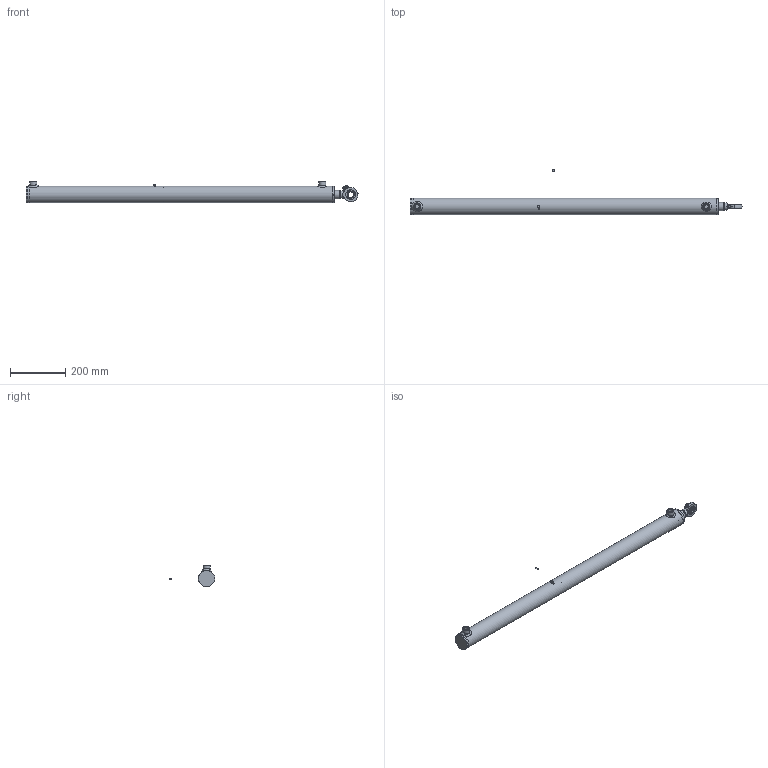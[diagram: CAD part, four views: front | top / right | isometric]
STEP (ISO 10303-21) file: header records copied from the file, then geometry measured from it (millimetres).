
FILE_DESCRIPTION( ( 'Unknown' ), '1' );
FILE_NAME( 'E:/LIBRERIA_3d/CILINDRI/HMB/HMB2301000.stp', 'Unknown', ( 'Unknown' ), ( 'Unknown' ), 'PSStep 17.0.49', 'Unknown', ' ' );
FILE_SCHEMA( ( 'AUTOMOTIVE_DESIGN { 1 0 10303 214 1 1 1 1 }' ) );
Length unit declared in the file: millimetre
Products named in the file (40): cstsf020c0; tsc20c_CORPO; AN00006001; CSTSF020N0; CSTS020N_CORPO-oa3; CSAI002035; CSAI002035-oa4; STL2501000-oa9; Saldatura d'angolo 1-oa7; FTM2501000-oa8; CBSC220600; CT00050020; CG06005030; CSTS020N00; CGE0200000-oa2; APGR013000; HM02301000; Saldatura con preparazione 1-oa5; Saldatura d'angolo 1-oa6; CF00050060; CBS0600000; CDA0002015; APG0600000; SBL3021000; CSTS020C00; CGE0200000; Assem1; Saldatura d'angolo 2-oa0; Saldatura d'angolo 3-oa1; CSCS004010
Assembly tree (33 placements, depth 4):
  Saldatura d'angolo 1-oa7
  Saldatura d'angolo 1-oa7
  Saldatura d'angolo 1-oa6
  Saldatura d'angolo 1-oa6
  Assem1
    APGR013000  x2
    CSCS004010
    CSTS020C00
      CGE0200000
      APGR013000
      cstsf020c0
        tsc20c_CORPO
        AN00006001
    CSTS020N00
      CGE0200000-oa2
      APGR013000
      CSTSF020N0
        AN00006001
        CSTS020N_CORPO-oa3
        CSAI002035
        CSAI002035-oa4
    HM02301000
      Saldatura con preparazione 1-oa5
      Saldatura con preparazione 1-oa5
      CF00050060
      CBS0600000
      CDA0002015
      APG0600000  x2
      SBL3021000
      CG06005030
        CG06005030
      CT00050020
        CT00050020
      STL2501000-oa9
        FTM2501000-oa8
        CBSC220600
Bounding box: 1204.31 x 166 x 79 mm (x, y, z)
Volume: 1955628.1 mm3; surface area: 589907.3 mm2
Topology: 35 solids, 35 shells, 403 faces, 829 edges, 527 vertices
Faces by surface type: plane 158, cylinder 102, cone 50, torus 46, bspline 40, sphere 7
Full cylindrical faces by diameter (mm): 2 x4, 3 x1, 4 x3, 4.25 x2, 5 x11, 6 x2, 7 x2, 8 x4, 9 x4, 14.95 x2, 16 x2, 16.6 x2, 19.4 x1, 20 x9, 22 x2, 24.5 x1, 26 x2, 27.5 x1, 30 x5, 32 x1, 33 x3, 34 x1, 35 x8, 38.6 x1, 40 x1, 45 x1, 45.41 x2, 48.66 x2, 49.9 x1, 50 x1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
Entity records: 15088 total; most frequent: CARTESIAN_POINT 5857, DIRECTION 1386, ORIENTED_EDGE 912, AXIS2_PLACEMENT_3D 632, EDGE_LOOP 607, FACE_OUTER_BOUND 480, EDGE_CURVE 456, VERTEX_POINT 391
